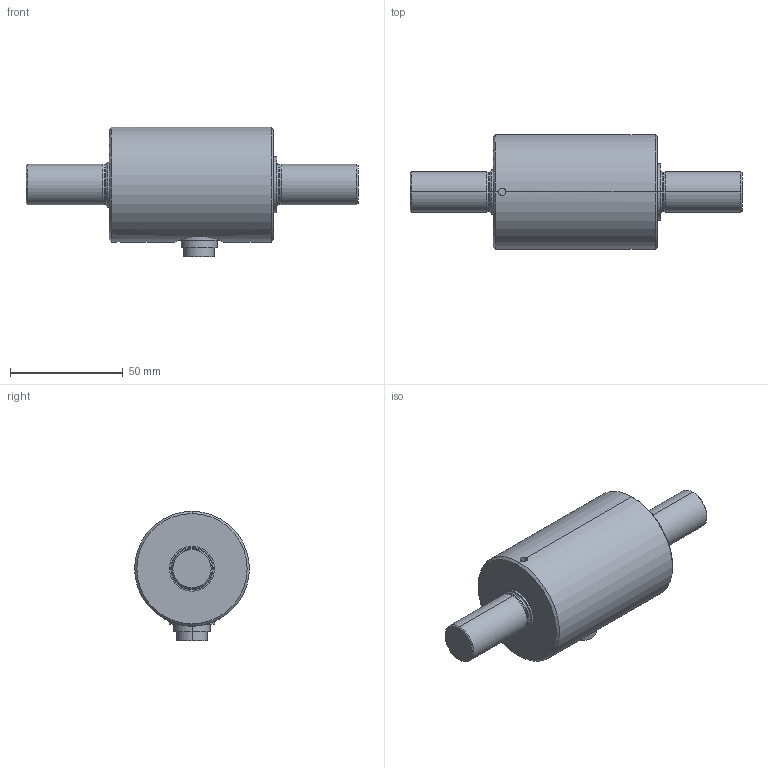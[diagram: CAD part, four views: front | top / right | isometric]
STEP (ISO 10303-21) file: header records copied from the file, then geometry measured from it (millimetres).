
FILE_DESCRIPTION(('STEP AP214'),'1');
FILE_NAME('burster_8625-5100_d1qhhfs54x575ucw9w286q1f.stp','2017-04-20T16:12:57',('TraceParts'),('TraceParts S.A.'),'Spatial InterOp 3D',' ',' ');
FILE_SCHEMA(('automotive_design'));
Length unit declared in the file: millimetre
Products named in the file (1): burster_8625-5100_d1qhhfs54x575ucw9w286q1f
Bounding box: 147.5 x 51 x 57.5 mm (x, y, z)
Volume: 168702.2 mm3; surface area: 20802.3 mm2
Topology: 1 solids, 1 shells, 81 faces, 170 edges, 105 vertices
Faces by surface type: cylinder 38, plane 19, cone 12, torus 8, bspline 4
Entity records: 3811 total; most frequent: CARTESIAN_POINT 1360, DIRECTION 407, ORIENTED_EDGE 340, AXIS2_PLACEMENT_3D 176, EDGE_CURVE 170, VERTEX_POINT 105, CIRCLE 98, EDGE_LOOP 95
